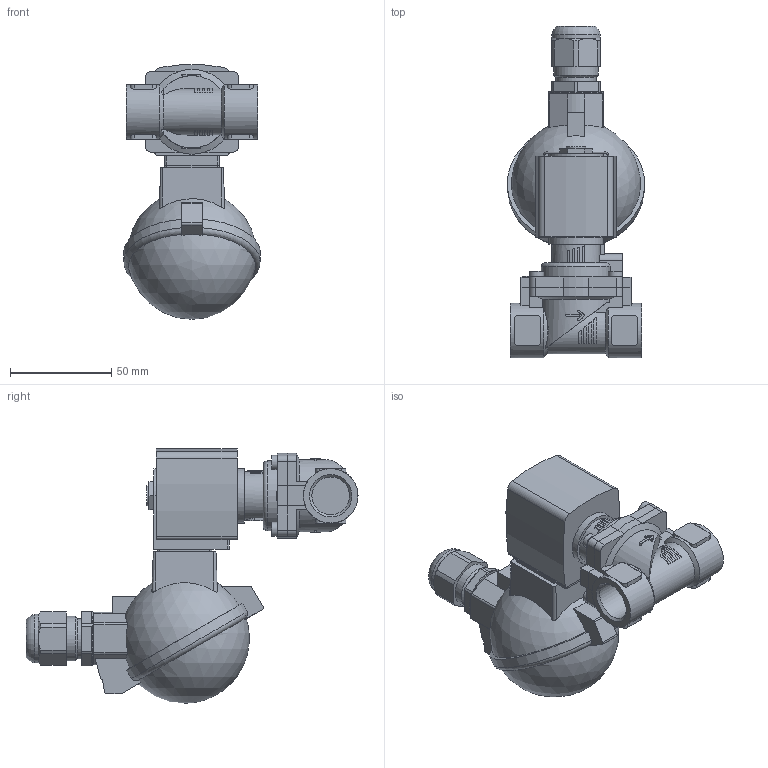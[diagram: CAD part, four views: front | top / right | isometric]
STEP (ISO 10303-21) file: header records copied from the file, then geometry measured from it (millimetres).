
FILE_DESCRIPTION(/* description */ ('STEP AP214'),/* implementation_level */ '2;1');
FILE_NAME(/* name */ '6281-386976-2_2-Way_Solenoid_Valve__Servo-assisted__General_Purpose',/* time_stamp */ '2024-08-16T21:50:29+02:00',/* author */ ('License CC BY-ND 4.0'),/* organization */ ('CADENAS'),/* preprocessor_version */ 'ST-DEVELOPER v19.3',/* originating_system */ 'PARTsolutions',/* authorisation */ ' ');
FILE_SCHEMA (('AUTOMOTIVE_DESIGN {1 0 10303 214 3 1 1}'));
Length unit declared in the file: millimetre
Products named in the file (4): 6281-386976-2/2-Way Solenoid Valve, Servo-assisted, General Purpose; 5281ev130MS2/2-Wege-Magnetventil mit Servomembran-Deckel 42 ; 6213-13G1/2MS-Gehaeuse-lang; AC10ex-6ATEXKLK_MB05Plan-Coil
Assembly tree (3 placements, depth 2):
  6281-386976-2/2-Way Solenoid Valve, Servo-assisted, General Purpose
    5281ev130MS2/2-Wege-Magnetventil mit Servomembran-Deckel 42 
    6213-13G1/2MS-Gehaeuse-lang
    AC10ex-6ATEXKLK_MB05Plan-Coil
Bounding box: 67.86 x 164.3 x 126.03 mm (x, y, z)
Volume: 314101.3 mm3; surface area: 53449.7 mm2
Topology: 3 solids, 3 shells, 391 faces, 1023 edges, 668 vertices
Faces by surface type: plane 241, cylinder 117, cone 25, torus 4, sphere 4
Full cylindrical faces by diameter (mm): 3.242 x1, 7 x4, 9.74 x1, 14 x1, 17.294 x1, 18.631 x2, 20 x1, 22 x1, 23 x1, 24 x1, 27 x4
Entity records: 13640 total; most frequent: CARTESIAN_POINT 2378, DIRECTION 2036, ORIENTED_EDGE 1968, EDGE_CURVE 984, AXIS2_PLACEMENT_3D 746, VERTEX_POINT 656, LINE 544, VECTOR 544
